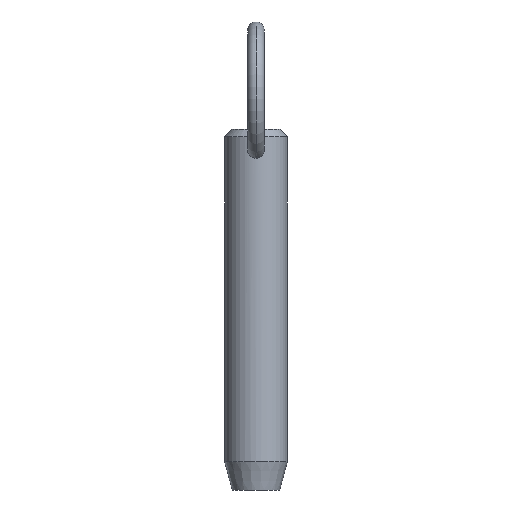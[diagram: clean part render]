
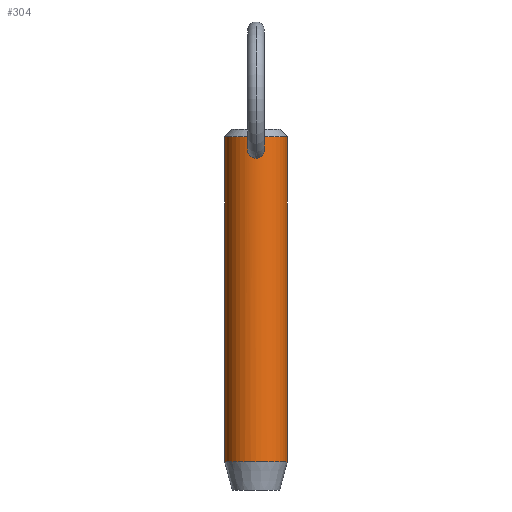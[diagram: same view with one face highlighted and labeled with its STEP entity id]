
A CAD part, front view. The second image highlights one B-rep face of the part: STEP entity #304.
In plain terms, the highlighted cylindrical face has radius 5.55 mm (diameter 11.1 mm), a partial arc.
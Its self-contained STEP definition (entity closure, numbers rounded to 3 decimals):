
#11 = CARTESIAN_POINT ( 'NONE',  ( -5.55, 0., 43.2 ) ) ;
#13 = CARTESIAN_POINT ( 'NONE',  ( 0., -5.55, 47.945 ) ) ;
#15 = CARTESIAN_POINT ( 'NONE',  ( 0., -5.55, 47.945 ) ) ;
#18 = CARTESIAN_POINT ( 'NONE',  ( -1.26, -5.407, 45.142 ) ) ;
#32 = CIRCLE ( 'NONE', #308, 5.55 ) ;
#33 = CARTESIAN_POINT ( 'NONE',  ( 0.807, -5.492, 44.706 ) ) ;
#35 = CARTESIAN_POINT ( 'NONE',  ( 0.515, -5.527, 47.822 ) ) ;
#37 = CARTESIAN_POINT ( 'NONE',  ( 0.977, -5.464, 44.832 ) ) ;
#41 = CARTESIAN_POINT ( 'NONE',  ( 0.523, -5.526, 44.566 ) ) ;
#43 = DIRECTION ( 'NONE',  ( 0., 0., -1. ) ) ;
#46 = FACE_BOUND ( 'NONE', #478, .T. ) ;
#50 = CARTESIAN_POINT ( 'NONE',  ( -0.716, -5.504, 44.652 ) ) ;
#53 = CARTESIAN_POINT ( 'NONE',  ( -1.054, -5.449, 44.904 ) ) ;
#57 = CARTESIAN_POINT ( 'NONE',  ( -0.807, -5.492, 44.705 ) ) ;
#64 = CARTESIAN_POINT ( 'NONE',  ( 5.55, 0., -9.2 ) ) ;
#70 = CARTESIAN_POINT ( 'NONE',  ( 0., -5.55, 44.477 ) ) ;
#74 = VERTEX_POINT ( 'NONE', #64 ) ;
#77 = B_SPLINE_CURVE_WITH_KNOTS ( 'NONE', 3,
 ( #374, #421, #492, #422, #210, #50, #57, #372, #53, #18, #334, #368, #413, #164, #490, #90, #373, #228, #269, #154, #190, #240, #525, #132, #495, #13 ),
 .UNSPECIFIED., .F., .F.,
 ( 4, 2, 2, 2, 2, 2, 2, 2, 2, 2, 2, 2, 4 ),
 ( 0.01, 0.01, 0.01, 0.011, 0.011, 0.012, 0.012, 0.012, 0.013, 0.013, 0.014, 0.014, 0.015 ),
 .UNSPECIFIED. ) ;
#78 = CARTESIAN_POINT ( 'NONE',  ( 0.213, -5.547, 44.488 ) ) ;
#90 = CARTESIAN_POINT ( 'NONE',  ( -1.485, -5.348, 46.379 ) ) ;
#114 = CARTESIAN_POINT ( 'NONE',  ( 1.26, -5.407, 45.143 ) ) ;
#115 = DIRECTION ( 'NONE',  ( 0., 0., -1. ) ) ;
#116 = CARTESIAN_POINT ( 'NONE',  ( 0.941, -5.471, 47.507 ) ) ;
#119 = FACE_OUTER_BOUND ( 'NONE', #246, .T. ) ;
#128 = DIRECTION ( 'NONE',  ( 0., 0., -1. ) ) ;
#132 = CARTESIAN_POINT ( 'NONE',  ( -0.211, -5.547, 47.929 ) ) ;
#153 = CARTESIAN_POINT ( 'NONE',  ( 1.455, -5.356, 45.638 ) ) ;
#154 = CARTESIAN_POINT ( 'NONE',  ( -0.939, -5.472, 47.51 ) ) ;
#155 = DIRECTION ( 'NONE',  ( 0., 0., 1. ) ) ;
#157 = CARTESIAN_POINT ( 'NONE',  ( 0., 0., 43.2 ) ) ;
#164 = CARTESIAN_POINT ( 'NONE',  ( -1.5, -5.343, 45.953 ) ) ;
#190 = CARTESIAN_POINT ( 'NONE',  ( -0.785, -5.497, 47.658 ) ) ;
#193 = ORIENTED_EDGE ( 'NONE', *, *, #475, .T. ) ;
#195 = CARTESIAN_POINT ( 'NONE',  ( 0., -5.55, 47.945 ) ) ;
#196 = ORIENTED_EDGE ( 'NONE', *, *, #283, .F. ) ;
#205 = VECTOR ( 'NONE', #43, 1000. ) ;
#207 = ORIENTED_EDGE ( 'NONE', *, *, #493, .T. ) ;
#210 = CARTESIAN_POINT ( 'NONE',  ( -0.523, -5.526, 44.566 ) ) ;
#214 = LINE ( 'NONE', #281, #205 ) ;
#218 = EDGE_CURVE ( 'NONE', #498, #401, #251, .T. ) ;
#228 = CARTESIAN_POINT ( 'NONE',  ( -1.294, -5.398, 46.986 ) ) ;
#231 = CARTESIAN_POINT ( 'NONE',  ( 0.214, -5.547, 47.928 ) ) ;
#235 = VERTEX_POINT ( 'NONE', #437 ) ;
#237 = CARTESIAN_POINT ( 'NONE',  ( 1.194, -5.422, 47.171 ) ) ;
#238 = DIRECTION ( 'NONE',  ( -1., 0., 0. ) ) ;
#240 = CARTESIAN_POINT ( 'NONE',  ( -0.513, -5.527, 47.823 ) ) ;
#246 = EDGE_LOOP ( 'NONE', ( #196, #348, #193, #260 ) ) ;
#251 = B_SPLINE_CURVE_WITH_KNOTS ( 'NONE', 3,
 ( #195, #520, #231, #400, #35, #433, #116, #237, #514, #313, #402, #522, #397, #272, #153, #438, #114, #403, #37, #33, #315, #41, #318, #78, #442, #70 ),
 .UNSPECIFIED., .F., .F.,
 ( 4, 2, 2, 2, 2, 2, 2, 2, 2, 2, 2, 2, 4 ),
 ( 0.005, 0.005, 0.005, 0.006, 0.006, 0.007, 0.007, 0.008, 0.008, 0.009, 0.009, 0.009, 0.01 ),
 .UNSPECIFIED. ) ;
#260 = ORIENTED_EDGE ( 'NONE', *, *, #350, .T. ) ;
#265 = AXIS2_PLACEMENT_3D ( 'NONE', #157, #446, #449 ) ;
#269 = CARTESIAN_POINT ( 'NONE',  ( -1.195, -5.421, 47.171 ) ) ;
#272 = CARTESIAN_POINT ( 'NONE',  ( 1.477, -5.35, 45.744 ) ) ;
#281 = CARTESIAN_POINT ( 'NONE',  ( 5.55, 0., 43.2 ) ) ;
#283 = EDGE_CURVE ( 'NONE', #349, #74, #214, .T. ) ;
#304 = ADVANCED_FACE ( 'NONE', ( #119, #46 ), #352, .T. ) ;
#308 = AXIS2_PLACEMENT_3D ( 'NONE', #527, #155, #238 ) ;
#313 = CARTESIAN_POINT ( 'NONE',  ( 1.44, -5.36, 46.586 ) ) ;
#315 = CARTESIAN_POINT ( 'NONE',  ( 0.716, -5.504, 44.652 ) ) ;
#319 = ORIENTED_EDGE ( 'NONE', *, *, #218, .T. ) ;
#318 = CARTESIAN_POINT ( 'NONE',  ( 0.421, -5.535, 44.532 ) ) ;
#321 = AXIS2_PLACEMENT_3D ( 'NONE', #353, #115, #513 ) ;
#329 = CARTESIAN_POINT ( 'NONE',  ( -5.55, 0., 48.25 ) ) ;
#334 = CARTESIAN_POINT ( 'NONE',  ( -1.362, -5.381, 45.332 ) ) ;
#341 = VECTOR ( 'NONE', #128, 1000. ) ;
#348 = ORIENTED_EDGE ( 'NONE', *, *, #523, .T. ) ;
#349 = VERTEX_POINT ( 'NONE', #485 ) ;
#350 = EDGE_CURVE ( 'NONE', #235, #74, #32, .T. ) ;
#352 = CYLINDRICAL_SURFACE ( 'NONE', #265, 5.55 ) ;
#353 = CARTESIAN_POINT ( 'NONE',  ( 0., 0., 48.25 ) ) ;
#368 = CARTESIAN_POINT ( 'NONE',  ( -1.455, -5.356, 45.636 ) ) ;
#371 = VERTEX_POINT ( 'NONE', #329 ) ;
#372 = CARTESIAN_POINT ( 'NONE',  ( -0.976, -5.464, 44.831 ) ) ;
#373 = CARTESIAN_POINT ( 'NONE',  ( -1.44, -5.36, 46.587 ) ) ;
#374 = CARTESIAN_POINT ( 'NONE',  ( 0., -5.55, 44.477 ) ) ;
#397 = CARTESIAN_POINT ( 'NONE',  ( 1.5, -5.343, 45.954 ) ) ;
#401 = VERTEX_POINT ( 'NONE', #447 ) ;
#400 = CARTESIAN_POINT ( 'NONE',  ( 0.417, -5.535, 47.867 ) ) ;
#402 = CARTESIAN_POINT ( 'NONE',  ( 1.486, -5.347, 46.374 ) ) ;
#403 = CARTESIAN_POINT ( 'NONE',  ( 1.055, -5.449, 44.905 ) ) ;
#413 = CARTESIAN_POINT ( 'NONE',  ( -1.477, -5.35, 45.742 ) ) ;
#421 = CARTESIAN_POINT ( 'NONE',  ( -0.107, -5.55, 44.477 ) ) ;
#422 = CARTESIAN_POINT ( 'NONE',  ( -0.42, -5.535, 44.532 ) ) ;
#433 = CARTESIAN_POINT ( 'NONE',  ( 0.786, -5.497, 47.657 ) ) ;
#437 = CARTESIAN_POINT ( 'NONE',  ( -5.55, 0., -9.2 ) ) ;
#438 = CARTESIAN_POINT ( 'NONE',  ( 1.363, -5.38, 45.334 ) ) ;
#439 = LINE ( 'NONE', #11, #341 ) ;
#442 = CARTESIAN_POINT ( 'NONE',  ( 0.107, -5.55, 44.477 ) ) ;
#446 = DIRECTION ( 'NONE',  ( 0., 0., -1. ) ) ;
#447 = CARTESIAN_POINT ( 'NONE',  ( 0., -5.55, 44.477 ) ) ;
#449 = DIRECTION ( 'NONE',  ( -1., 0., 0. ) ) ;
#475 = EDGE_CURVE ( 'NONE', #371, #235, #439, .T. ) ;
#478 = EDGE_LOOP ( 'NONE', ( #319, #207 ) ) ;
#485 = CARTESIAN_POINT ( 'NONE',  ( 5.55, 0., 48.25 ) ) ;
#488 = CIRCLE ( 'NONE', #321, 5.55 ) ;
#490 = CARTESIAN_POINT ( 'NONE',  ( -1.503, -5.343, 46.059 ) ) ;
#492 = CARTESIAN_POINT ( 'NONE',  ( -0.212, -5.547, 44.488 ) ) ;
#493 = EDGE_CURVE ( 'NONE', #401, #498, #77, .T. ) ;
#495 = CARTESIAN_POINT ( 'NONE',  ( -0.106, -5.55, 47.945 ) ) ;
#498 = VERTEX_POINT ( 'NONE', #15 ) ;
#513 = DIRECTION ( 'NONE',  ( 1., 0., 0. ) ) ;
#514 = CARTESIAN_POINT ( 'NONE',  ( 1.295, -5.397, 46.982 ) ) ;
#520 = CARTESIAN_POINT ( 'NONE',  ( 0.106, -5.55, 47.945 ) ) ;
#522 = CARTESIAN_POINT ( 'NONE',  ( 1.503, -5.343, 46.059 ) ) ;
#523 = EDGE_CURVE ( 'NONE', #349, #371, #488, .T. ) ;
#525 = CARTESIAN_POINT ( 'NONE',  ( -0.416, -5.535, 47.867 ) ) ;
#527 = CARTESIAN_POINT ( 'NONE',  ( 0., 0., -9.2 ) ) ;
